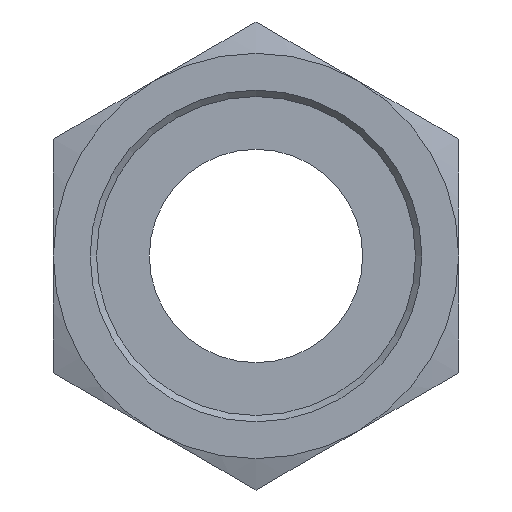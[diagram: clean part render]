
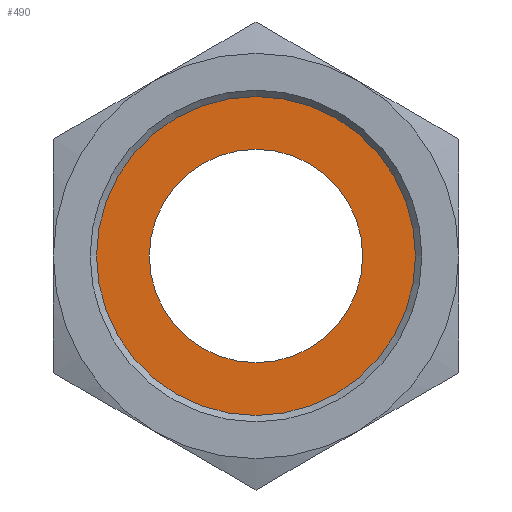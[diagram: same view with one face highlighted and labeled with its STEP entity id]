
A CAD part, front view. The second image highlights one B-rep face of the part: STEP entity #490.
In plain terms, the highlighted planar face has unit normal (0, -1, 0).
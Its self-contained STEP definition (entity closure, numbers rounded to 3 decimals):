
#41=FACE_BOUND('',#121,.T.);
#48=PLANE('',#571);
#83=FACE_OUTER_BOUND('',#120,.T.);
#120=EDGE_LOOP('',(#374));
#121=EDGE_LOOP('',(#375));
#182=CIRCLE('',#541,5.);
#197=CIRCLE('',#563,7.475);
#215=VERTEX_POINT('',#764);
#229=VERTEX_POINT('',#805);
#260=EDGE_CURVE('',#215,#215,#182,.T.);
#280=EDGE_CURVE('',#229,#229,#197,.T.);
#374=ORIENTED_EDGE('',*,*,#280,.T.);
#375=ORIENTED_EDGE('',*,*,#260,.T.);
#490=ADVANCED_FACE('',(#83,#41),#48,.T.);
#541=AXIS2_PLACEMENT_3D('',#766,#614,#615);
#563=AXIS2_PLACEMENT_3D('',#807,#663,#664);
#571=AXIS2_PLACEMENT_3D('',#821,#679,#680);
#614=DIRECTION('center_axis',(0.,1.,0.));
#615=DIRECTION('ref_axis',(1.,0.,0.));
#663=DIRECTION('center_axis',(0.,-1.,0.));
#664=DIRECTION('ref_axis',(1.,0.,0.));
#679=DIRECTION('center_axis',(0.,-1.,0.));
#680=DIRECTION('ref_axis',(1.,0.,0.));
#764=CARTESIAN_POINT('',(-5.,12.,0.));
#766=CARTESIAN_POINT('Origin',(0.,12.,0.));
#805=CARTESIAN_POINT('',(-7.475,12.,0.));
#807=CARTESIAN_POINT('Origin',(0.,12.,0.));
#821=CARTESIAN_POINT('Origin',(0.,12.,0.));
